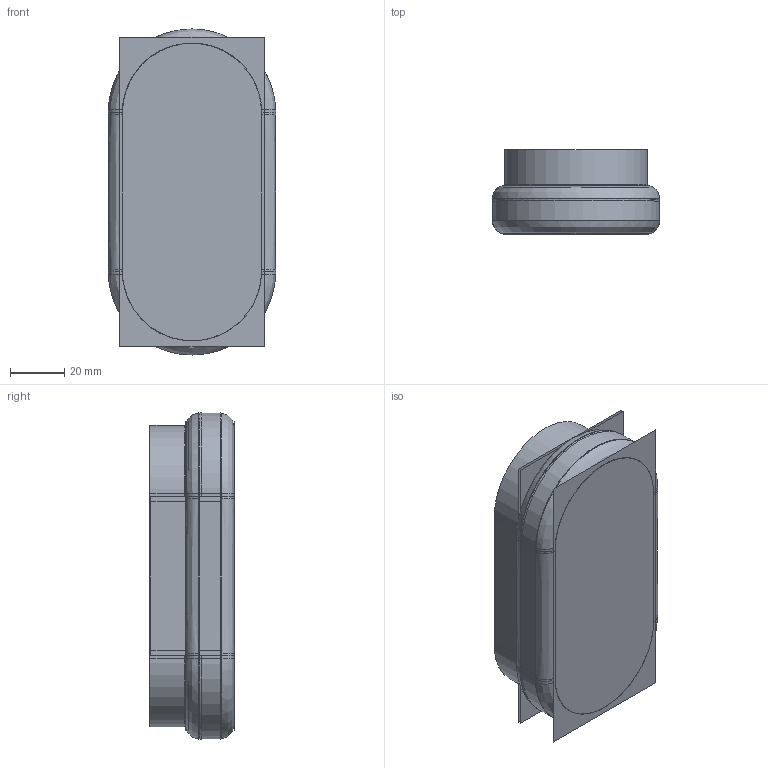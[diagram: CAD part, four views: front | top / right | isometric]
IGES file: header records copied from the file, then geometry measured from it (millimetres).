
Start section:  PTC IGES file: gtc01-a-mcf01_prt.igs
Global section: file name: gtc01-a-mcf01_prt.igs; native system: Pro/ENGINEER by Parametric Technology Corporation; preprocessor: 2006170; author: GRA; organization: Unknown; date: 20080630.105143; units: millimetre
Bounding box: 62.01 x 31.17 x 120.7 mm (x, y, z)
Surface area: 360169.9 mm2 (no closed solid volume)
Topology: 0 solids, 0 shells, 820 faces, 5769 edges, 6285 vertices
Faces by surface type: bspline 637, revolution 139, extrusion 44
